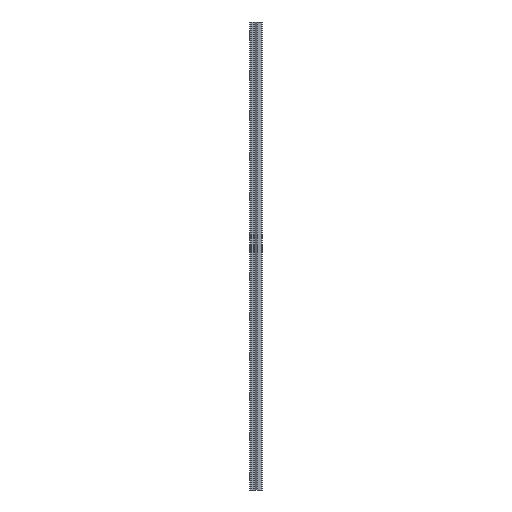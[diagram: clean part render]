
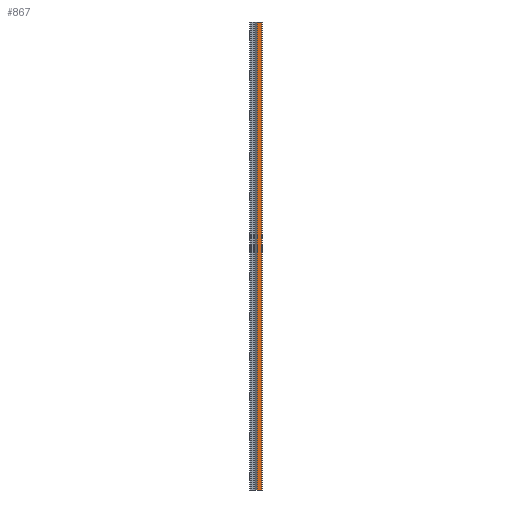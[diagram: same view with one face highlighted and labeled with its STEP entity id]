
A CAD part, left-side view. The second image highlights one B-rep face of the part: STEP entity #867.
In plain terms, the highlighted planar face has unit normal (-1, 0, 0).
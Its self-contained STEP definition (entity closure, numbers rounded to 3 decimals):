
#74 = CARTESIAN_POINT ( 'NONE',  ( -11.5, 19.2, 350. ) ) ;
#134 = DIRECTION ( 'NONE',  ( 0., -1., 0. ) ) ;
#167 = VECTOR ( 'NONE', #715, 1000. ) ;
#219 = DIRECTION ( 'NONE',  ( 1., 0., 0. ) ) ;
#243 = VERTEX_POINT ( 'NONE', #1222 ) ;
#494 = CARTESIAN_POINT ( 'NONE',  ( -11.5, 1.25, 350. ) ) ;
#508 = EDGE_CURVE ( 'NONE', #880, #646, #567, .T. ) ;
#560 = CARTESIAN_POINT ( 'NONE',  ( -11.5, 1.25, -350. ) ) ;
#567 = LINE ( 'NONE', #74, #1715 ) ;
#581 = EDGE_CURVE ( 'NONE', #243, #2661, #1880, .T. ) ;
#635 = EDGE_LOOP ( 'NONE', ( #2493, #1525, #1437, #1546 ) ) ;
#646 = VERTEX_POINT ( 'NONE', #1590 ) ;
#647 = LINE ( 'NONE', #2047, #1414 ) ;
#652 = CARTESIAN_POINT ( 'NONE',  ( -11.5, 7.95, 350. ) ) ;
#715 = DIRECTION ( 'NONE',  ( 0., 0., 1. ) ) ;
#867 = ADVANCED_FACE ( 'NONE', ( #1918 ), #2357, .F. ) ;
#880 = VERTEX_POINT ( 'NONE', #652 ) ;
#1033 = EDGE_CURVE ( 'NONE', #2661, #646, #1673, .T. ) ;
#1081 = DIRECTION ( 'NONE',  ( 0., 1., 0. ) ) ;
#1206 = DIRECTION ( 'NONE',  ( 0., 0., 1. ) ) ;
#1222 = CARTESIAN_POINT ( 'NONE',  ( -11.5, 7.95, -350. ) ) ;
#1323 = DIRECTION ( 'NONE',  ( 0., -1., 0. ) ) ;
#1414 = VECTOR ( 'NONE', #1206, 1000. ) ;
#1437 = ORIENTED_EDGE ( 'NONE', *, *, #508, .F. ) ;
#1525 = ORIENTED_EDGE ( 'NONE', *, *, #1033, .T. ) ;
#1546 = ORIENTED_EDGE ( 'NONE', *, *, #2614, .F. ) ;
#1590 = CARTESIAN_POINT ( 'NONE',  ( -11.5, 1.25, 350. ) ) ;
#1673 = LINE ( 'NONE', #494, #167 ) ;
#1678 = VECTOR ( 'NONE', #134, 1000. ) ;
#1715 = VECTOR ( 'NONE', #1323, 1000. ) ;
#1880 = LINE ( 'NONE', #2465, #1678 ) ;
#1918 = FACE_OUTER_BOUND ( 'NONE', #635, .T. ) ;
#2047 = CARTESIAN_POINT ( 'NONE',  ( -11.5, 7.95, -350. ) ) ;
#2167 = AXIS2_PLACEMENT_3D ( 'NONE', #2382, #219, #1081 ) ;
#2357 = PLANE ( 'NONE',  #2167 ) ;
#2382 = CARTESIAN_POINT ( 'NONE',  ( -11.5, 19.2, 350. ) ) ;
#2465 = CARTESIAN_POINT ( 'NONE',  ( -11.5, 19.2, -350. ) ) ;
#2493 = ORIENTED_EDGE ( 'NONE', *, *, #581, .T. ) ;
#2614 = EDGE_CURVE ( 'NONE', #243, #880, #647, .T. ) ;
#2661 = VERTEX_POINT ( 'NONE', #560 ) ;
